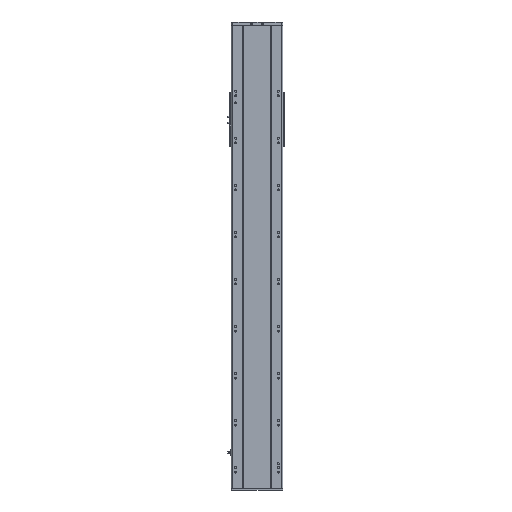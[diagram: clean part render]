
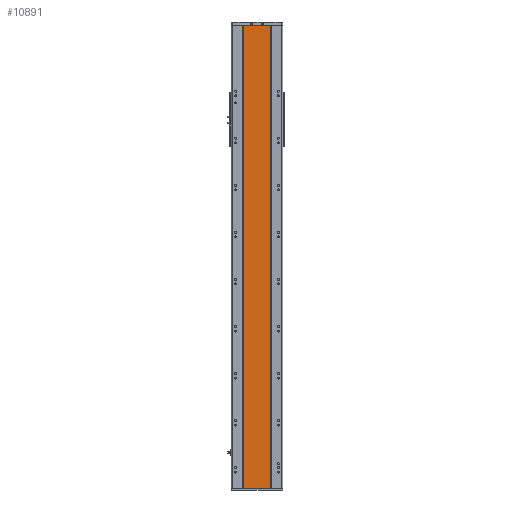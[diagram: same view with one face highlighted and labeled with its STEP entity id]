
A CAD part, front view. The second image highlights one B-rep face of the part: STEP entity #10891.
In plain terms, the highlighted planar face has unit normal (0, -1, 0).
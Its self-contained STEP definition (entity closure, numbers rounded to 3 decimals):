
#389 = VECTOR ( 'NONE', #5097, 1000. ) ;
#442 = ORIENTED_EDGE ( 'NONE', *, *, #3651, .T. ) ;
#1848 = FACE_OUTER_BOUND ( 'NONE', #31902, .T. ) ;
#3374 = VECTOR ( 'NONE', #13202, 1000. ) ;
#3499 = VERTEX_POINT ( 'NONE', #12163 ) ;
#3641 = CARTESIAN_POINT ( 'NONE',  ( -59., 1., 985.5 ) ) ;
#3651 = EDGE_CURVE ( 'NONE', #22606, #3499, #20628, .T. ) ;
#3901 = EDGE_CURVE ( 'NONE', #22606, #20663, #21086, .T. ) ;
#5097 = DIRECTION ( 'NONE',  ( 1., 0., 0. ) ) ;
#6570 = ORIENTED_EDGE ( 'NONE', *, *, #3901, .F. ) ;
#10317 = DIRECTION ( 'NONE',  ( -1., 0., 0. ) ) ;
#10891 = ADVANCED_FACE ( 'NONE', ( #1848 ), #34604, .F. ) ;
#12163 = CARTESIAN_POINT ( 'NONE',  ( -59., 1., -985.5 ) ) ;
#12445 = VECTOR ( 'NONE', #28536, 1000. ) ;
#13202 = DIRECTION ( 'NONE',  ( 0., 0., -1. ) ) ;
#13559 = VERTEX_POINT ( 'NONE', #27823 ) ;
#19571 = CARTESIAN_POINT ( 'NONE',  ( -59., 1., 985.5 ) ) ;
#20428 = VECTOR ( 'NONE', #38981, 1000. ) ;
#20628 = LINE ( 'NONE', #3641, #12445 ) ;
#20663 = VERTEX_POINT ( 'NONE', #31880 ) ;
#21086 = LINE ( 'NONE', #35714, #389 ) ;
#22359 = LINE ( 'NONE', #26691, #20428 ) ;
#22606 = VERTEX_POINT ( 'NONE', #19571 ) ;
#26691 = CARTESIAN_POINT ( 'NONE',  ( -59., 1., -985.5 ) ) ;
#26741 = ORIENTED_EDGE ( 'NONE', *, *, #32333, .T. ) ;
#27823 = CARTESIAN_POINT ( 'NONE',  ( 59., 1., -985.5 ) ) ;
#28429 = ORIENTED_EDGE ( 'NONE', *, *, #36521, .F. ) ;
#28536 = DIRECTION ( 'NONE',  ( 0., 0., -1. ) ) ;
#29504 = AXIS2_PLACEMENT_3D ( 'NONE', #31297, #34733, #10317 ) ;
#31184 = CARTESIAN_POINT ( 'NONE',  ( 59., 1., 985.5 ) ) ;
#31297 = CARTESIAN_POINT ( 'NONE',  ( -59., 1., 985.5 ) ) ;
#31880 = CARTESIAN_POINT ( 'NONE',  ( 59., 1., 985.5 ) ) ;
#31902 = EDGE_LOOP ( 'NONE', ( #26741, #28429, #6570, #442 ) ) ;
#32333 = EDGE_CURVE ( 'NONE', #3499, #13559, #22359, .T. ) ;
#34123 = LINE ( 'NONE', #31184, #3374 ) ;
#34604 = PLANE ( 'NONE',  #29504 ) ;
#34733 = DIRECTION ( 'NONE',  ( 0., 1., 0. ) ) ;
#35714 = CARTESIAN_POINT ( 'NONE',  ( -59., 1., 985.5 ) ) ;
#36521 = EDGE_CURVE ( 'NONE', #20663, #13559, #34123, .T. ) ;
#38981 = DIRECTION ( 'NONE',  ( 1., 0., 0. ) ) ;
